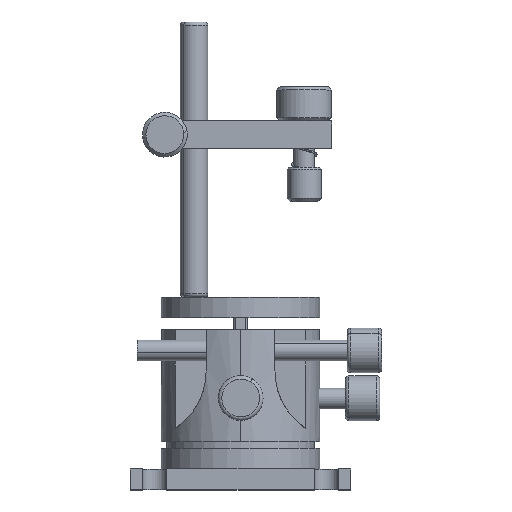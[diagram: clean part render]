
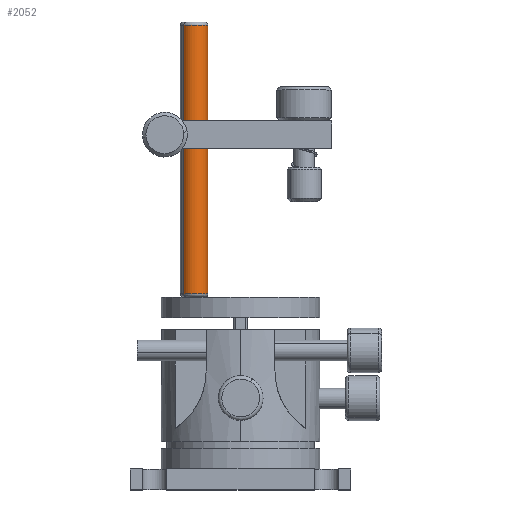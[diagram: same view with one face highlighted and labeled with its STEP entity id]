
A CAD part, top view. The second image highlights one B-rep face of the part: STEP entity #2052.
In plain terms, the highlighted cylindrical face has radius 4 mm (diameter 8 mm), a partial arc.
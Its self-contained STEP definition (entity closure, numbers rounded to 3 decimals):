
#865 = CARTESIAN_POINT ( 'NONE',  ( -13.5, 132., -13.5 ) ) ;
#920 = DIRECTION ( 'NONE',  ( 0., 1., 0. ) ) ;
#1141 = CARTESIAN_POINT ( 'NONE',  ( -16.475, 132., -10.826 ) ) ;
#1536 = LINE ( 'NONE', #2266, #5305 ) ;
#1539 = AXIS2_PLACEMENT_3D ( 'NONE', #9211, #920, #5372 ) ;
#1592 = DIRECTION ( 'NONE',  ( -0.744, 0., 0.669 ) ) ;
#1637 = LINE ( 'NONE', #4448, #3954 ) ;
#1833 = AXIS2_PLACEMENT_3D ( 'NONE', #865, #6131, #1592 ) ;
#1883 = CARTESIAN_POINT ( 'NONE',  ( -10.525, 54., -16.174 ) ) ;
#1968 = EDGE_CURVE ( 'NONE', #7056, #6152, #2239, .T. ) ;
#2017 = ORIENTED_EDGE ( 'NONE', *, *, #3052, .F. ) ;
#2021 = EDGE_LOOP ( 'NONE', ( #2017, #3683, #9619, #2552 ) ) ;
#2052 = ADVANCED_FACE ( 'NONE', ( #3396 ), #7230, .T. ) ;
#2239 = CIRCLE ( 'NONE', #1833, 4. ) ;
#2266 = CARTESIAN_POINT ( 'NONE',  ( -10.525, 133., -16.174 ) ) ;
#2291 = DIRECTION ( 'NONE',  ( 0., 1., 0. ) ) ;
#2552 = ORIENTED_EDGE ( 'NONE', *, *, #1968, .T. ) ;
#2935 = EDGE_CURVE ( 'NONE', #4239, #5297, #9687, .T. ) ;
#3052 = EDGE_CURVE ( 'NONE', #4239, #6152, #1637, .T. ) ;
#3396 = FACE_OUTER_BOUND ( 'NONE', #2021, .T. ) ;
#3683 = ORIENTED_EDGE ( 'NONE', *, *, #2935, .T. ) ;
#3766 = EDGE_CURVE ( 'NONE', #5297, #7056, #1536, .T. ) ;
#3954 = VECTOR ( 'NONE', #8339, 1000. ) ;
#4239 = VERTEX_POINT ( 'NONE', #5461 ) ;
#4266 = DIRECTION ( 'NONE',  ( 0., 1., 0. ) ) ;
#4448 = CARTESIAN_POINT ( 'NONE',  ( -16.475, 133., -10.826 ) ) ;
#5207 = AXIS2_PLACEMENT_3D ( 'NONE', #8844, #4266, #9606 ) ;
#5297 = VERTEX_POINT ( 'NONE', #1883 ) ;
#5305 = VECTOR ( 'NONE', #2291, 1000. ) ;
#5372 = DIRECTION ( 'NONE',  ( 0.744, 0., -0.669 ) ) ;
#5461 = CARTESIAN_POINT ( 'NONE',  ( -16.475, 54., -10.826 ) ) ;
#6131 = DIRECTION ( 'NONE',  ( 0., -1., 0. ) ) ;
#6152 = VERTEX_POINT ( 'NONE', #1141 ) ;
#7056 = VERTEX_POINT ( 'NONE', #8804 ) ;
#7230 = CYLINDRICAL_SURFACE ( 'NONE', #1539, 4. ) ;
#8339 = DIRECTION ( 'NONE',  ( 0., 1., 0. ) ) ;
#8804 = CARTESIAN_POINT ( 'NONE',  ( -10.525, 132., -16.174 ) ) ;
#8844 = CARTESIAN_POINT ( 'NONE',  ( -13.5, 54., -13.5 ) ) ;
#9211 = CARTESIAN_POINT ( 'NONE',  ( -13.5, 133., -13.5 ) ) ;
#9606 = DIRECTION ( 'NONE',  ( 0.744, 0., -0.669 ) ) ;
#9619 = ORIENTED_EDGE ( 'NONE', *, *, #3766, .T. ) ;
#9687 = CIRCLE ( 'NONE', #5207, 4. ) ;
